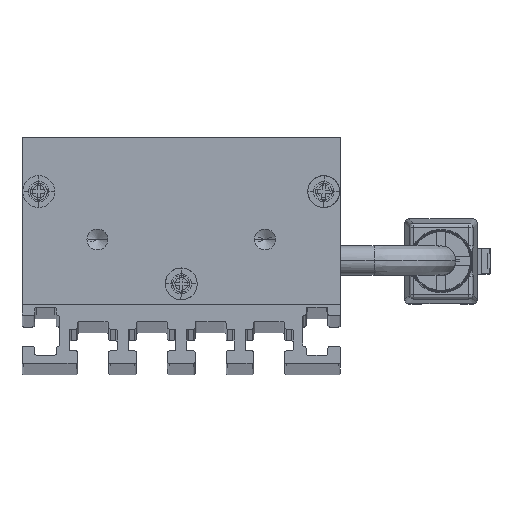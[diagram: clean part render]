
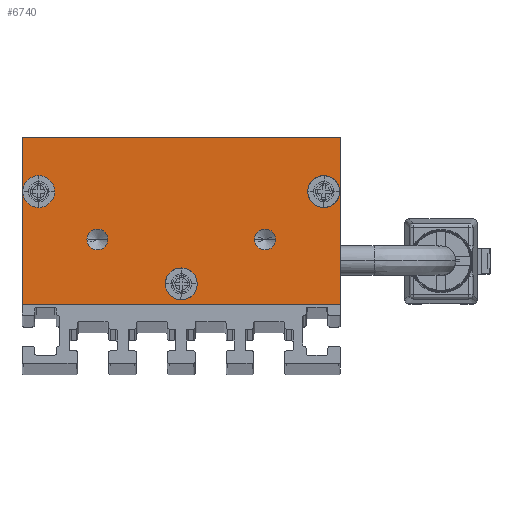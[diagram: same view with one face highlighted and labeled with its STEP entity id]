
A CAD part, top view. The second image highlights one B-rep face of the part: STEP entity #6740.
In plain terms, the highlighted planar face has unit normal (0, 0, 1) as drawn and (0, 0, -1) by its records, which use the part's own axes.
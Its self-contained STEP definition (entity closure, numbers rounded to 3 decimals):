
#277 = CARTESIAN_POINT ( 'NONE',  ( 17., 13.5, -2.5 ) ) ;
#442 = ORIENTED_EDGE ( 'NONE', *, *, #13126, .F. ) ;
#622 = ORIENTED_EDGE ( 'NONE', *, *, #9568, .F. ) ;
#627 = EDGE_CURVE ( 'NONE', #11807, #775, #1639, .T. ) ;
#636 = DIRECTION ( 'NONE',  ( -1., 0., 0. ) ) ;
#721 = VECTOR ( 'NONE', #636, 1000. ) ;
#775 = VERTEX_POINT ( 'NONE', #1201 ) ;
#1068 = FACE_BOUND ( 'NONE', #14077, .T. ) ;
#1178 = CARTESIAN_POINT ( 'NONE',  ( 19., 0., -2.5 ) ) ;
#1201 = CARTESIAN_POINT ( 'NONE',  ( 15.1, 13.5, -2.5 ) ) ;
#1346 = DIRECTION ( 'NONE',  ( 0., 0., -1. ) ) ;
#1430 = CARTESIAN_POINT ( 'NONE',  ( 19., 20., -2.5 ) ) ;
#1450 = CARTESIAN_POINT ( 'NONE',  ( -19., 20., -2.5 ) ) ;
#1461 = VERTEX_POINT ( 'NONE', #2991 ) ;
#1495 = DIRECTION ( 'NONE',  ( -1., 0., 0. ) ) ;
#1620 = CARTESIAN_POINT ( 'NONE',  ( -17., 13.5, -2.5 ) ) ;
#1639 = CIRCLE ( 'NONE', #10936, 1.9 ) ;
#1809 = CARTESIAN_POINT ( 'NONE',  ( -19., 0., -2.5 ) ) ;
#1945 = VECTOR ( 'NONE', #2033, 1000. ) ;
#1946 = CIRCLE ( 'NONE', #9652, 1.9 ) ;
#2030 = CARTESIAN_POINT ( 'NONE',  ( 8.75, 7.8, -2.5 ) ) ;
#2033 = DIRECTION ( 'NONE',  ( 0., -1., 0. ) ) ;
#2063 = CARTESIAN_POINT ( 'NONE',  ( 19., 20., -2.5 ) ) ;
#2137 = FACE_BOUND ( 'NONE', #3674, .T. ) ;
#2169 = VERTEX_POINT ( 'NONE', #7621 ) ;
#2222 = AXIS2_PLACEMENT_3D ( 'NONE', #7207, #3227, #14671 ) ;
#2271 = CARTESIAN_POINT ( 'NONE',  ( -17., 13.5, -2.5 ) ) ;
#2437 = VERTEX_POINT ( 'NONE', #1178 ) ;
#2500 = EDGE_CURVE ( 'NONE', #7313, #9584, #5995, .T. ) ;
#2547 = CARTESIAN_POINT ( 'NONE',  ( 10., 7.8, -2.5 ) ) ;
#2681 = CARTESIAN_POINT ( 'NONE',  ( 10., 7.8, -2.5 ) ) ;
#2764 = DIRECTION ( 'NONE',  ( 0., 0., -1. ) ) ;
#2850 = AXIS2_PLACEMENT_3D ( 'NONE', #2271, #13296, #1495 ) ;
#2872 = DIRECTION ( 'NONE',  ( -1., 0., 0. ) ) ;
#2895 = VERTEX_POINT ( 'NONE', #1450 ) ;
#2939 = DIRECTION ( 'NONE',  ( -1., 0., 0. ) ) ;
#2991 = CARTESIAN_POINT ( 'NONE',  ( -15.1, 13.5, -2.5 ) ) ;
#3227 = DIRECTION ( 'NONE',  ( 0., 0., 1. ) ) ;
#3247 = EDGE_CURVE ( 'NONE', #4294, #12187, #10470, .T. ) ;
#3566 = EDGE_LOOP ( 'NONE', ( #11755, #15294 ) ) ;
#3674 = EDGE_LOOP ( 'NONE', ( #13444, #622 ) ) ;
#3875 = CARTESIAN_POINT ( 'NONE',  ( 0., 2.5, -2.5 ) ) ;
#4037 = AXIS2_PLACEMENT_3D ( 'NONE', #1620, #10516, #8201 ) ;
#4294 = VERTEX_POINT ( 'NONE', #2030 ) ;
#4366 = DIRECTION ( 'NONE',  ( 0., 0., -1. ) ) ;
#4467 = CARTESIAN_POINT ( 'NONE',  ( -19., 20., -2.5 ) ) ;
#4518 = EDGE_CURVE ( 'NONE', #2169, #15547, #5823, .T. ) ;
#4602 = CARTESIAN_POINT ( 'NONE',  ( -19., 20., -2.5 ) ) ;
#4700 = CARTESIAN_POINT ( 'NONE',  ( 17., 13.5, -2.5 ) ) ;
#4924 = ORIENTED_EDGE ( 'NONE', *, *, #9884, .F. ) ;
#5024 = ORIENTED_EDGE ( 'NONE', *, *, #7702, .F. ) ;
#5092 = DIRECTION ( 'NONE',  ( 0., 0., -1. ) ) ;
#5093 = DIRECTION ( 'NONE',  ( -1., 0., 0. ) ) ;
#5168 = ORIENTED_EDGE ( 'NONE', *, *, #627, .F. ) ;
#5328 = DIRECTION ( 'NONE',  ( -1., 0., 0. ) ) ;
#5644 = EDGE_CURVE ( 'NONE', #1461, #15615, #8022, .T. ) ;
#5823 = CIRCLE ( 'NONE', #14296, 1.9 ) ;
#5974 = PLANE ( 'NONE',  #2222 ) ;
#5995 = CIRCLE ( 'NONE', #8117, 1.25 ) ;
#6201 = ORIENTED_EDGE ( 'NONE', *, *, #7264, .F. ) ;
#6414 = DIRECTION ( 'NONE',  ( -1., 0., 0. ) ) ;
#6426 = DIRECTION ( 'NONE',  ( -1., 0., 0. ) ) ;
#6487 = AXIS2_PLACEMENT_3D ( 'NONE', #6658, #5092, #5328 ) ;
#6501 = CIRCLE ( 'NONE', #9413, 1.25 ) ;
#6503 = VECTOR ( 'NONE', #6563, 1000. ) ;
#6563 = DIRECTION ( 'NONE',  ( 1., 0., 0. ) ) ;
#6585 = DIRECTION ( 'NONE',  ( 0., 0., -1. ) ) ;
#6589 = VERTEX_POINT ( 'NONE', #1809 ) ;
#6658 = CARTESIAN_POINT ( 'NONE',  ( -10., 7.8, -2.5 ) ) ;
#6740 = ADVANCED_FACE ( 'NONE', ( #12100, #1068, #12179, #2137, #14920, #8388 ), #5974, .F. ) ;
#7207 = CARTESIAN_POINT ( 'NONE',  ( 0., 0., -2.5 ) ) ;
#7264 = EDGE_CURVE ( 'NONE', #9584, #7313, #9683, .T. ) ;
#7305 = AXIS2_PLACEMENT_3D ( 'NONE', #2681, #1346, #5093 ) ;
#7313 = VERTEX_POINT ( 'NONE', #11706 ) ;
#7611 = CARTESIAN_POINT ( 'NONE',  ( -8.75, 7.8, -2.5 ) ) ;
#7621 = CARTESIAN_POINT ( 'NONE',  ( 1.9, 2.5, -2.5 ) ) ;
#7702 = EDGE_CURVE ( 'NONE', #6589, #2437, #9051, .T. ) ;
#7857 = DIRECTION ( 'NONE',  ( -1., 0., 0. ) ) ;
#7910 = CARTESIAN_POINT ( 'NONE',  ( -10., 7.8, -2.5 ) ) ;
#8022 = CIRCLE ( 'NONE', #4037, 1.9 ) ;
#8117 = AXIS2_PLACEMENT_3D ( 'NONE', #7910, #6585, #6414 ) ;
#8201 = DIRECTION ( 'NONE',  ( -1., 0., 0. ) ) ;
#8215 = LINE ( 'NONE', #4467, #721 ) ;
#8388 = FACE_OUTER_BOUND ( 'NONE', #13249, .T. ) ;
#8497 = EDGE_CURVE ( 'NONE', #15547, #2169, #1946, .T. ) ;
#8702 = CIRCLE ( 'NONE', #2850, 1.9 ) ;
#9017 = EDGE_CURVE ( 'NONE', #2437, #9142, #15921, .T. ) ;
#9051 = LINE ( 'NONE', #14107, #6503 ) ;
#9142 = VERTEX_POINT ( 'NONE', #2063 ) ;
#9413 = AXIS2_PLACEMENT_3D ( 'NONE', #2547, #12901, #7857 ) ;
#9522 = DIRECTION ( 'NONE',  ( -1., 0., 0. ) ) ;
#9568 = EDGE_CURVE ( 'NONE', #12187, #4294, #6501, .T. ) ;
#9584 = VERTEX_POINT ( 'NONE', #7611 ) ;
#9652 = AXIS2_PLACEMENT_3D ( 'NONE', #3875, #15705, #2939 ) ;
#9683 = CIRCLE ( 'NONE', #6487, 1.25 ) ;
#9693 = CIRCLE ( 'NONE', #11783, 1.9 ) ;
#9884 = EDGE_CURVE ( 'NONE', #2895, #6589, #10845, .T. ) ;
#10424 = DIRECTION ( 'NONE',  ( 0., 0., -1. ) ) ;
#10470 = CIRCLE ( 'NONE', #7305, 1.25 ) ;
#10516 = DIRECTION ( 'NONE',  ( 0., 0., -1. ) ) ;
#10845 = LINE ( 'NONE', #4602, #1945 ) ;
#10936 = AXIS2_PLACEMENT_3D ( 'NONE', #4700, #4366, #9522 ) ;
#10974 = CARTESIAN_POINT ( 'NONE',  ( 11.25, 7.8, -2.5 ) ) ;
#11412 = CARTESIAN_POINT ( 'NONE',  ( -18.9, 13.5, -2.5 ) ) ;
#11706 = CARTESIAN_POINT ( 'NONE',  ( -11.25, 7.8, -2.5 ) ) ;
#11755 = ORIENTED_EDGE ( 'NONE', *, *, #14706, .F. ) ;
#11783 = AXIS2_PLACEMENT_3D ( 'NONE', #277, #2764, #6426 ) ;
#11807 = VERTEX_POINT ( 'NONE', #13646 ) ;
#11916 = EDGE_CURVE ( 'NONE', #775, #11807, #9693, .T. ) ;
#12100 = FACE_BOUND ( 'NONE', #13157, .T. ) ;
#12179 = FACE_BOUND ( 'NONE', #3566, .T. ) ;
#12187 = VERTEX_POINT ( 'NONE', #10974 ) ;
#12566 = CARTESIAN_POINT ( 'NONE',  ( -1.9, 2.5, -2.5 ) ) ;
#12901 = DIRECTION ( 'NONE',  ( 0., 0., -1. ) ) ;
#13126 = EDGE_CURVE ( 'NONE', #9142, #2895, #8215, .T. ) ;
#13157 = EDGE_LOOP ( 'NONE', ( #15900, #5168 ) ) ;
#13249 = EDGE_LOOP ( 'NONE', ( #4924, #442, #15679, #5024 ) ) ;
#13296 = DIRECTION ( 'NONE',  ( 0., 0., -1. ) ) ;
#13444 = ORIENTED_EDGE ( 'NONE', *, *, #3247, .F. ) ;
#13646 = CARTESIAN_POINT ( 'NONE',  ( 18.9, 13.5, -2.5 ) ) ;
#13897 = VECTOR ( 'NONE', #14518, 1000. ) ;
#14077 = EDGE_LOOP ( 'NONE', ( #14587, #15347 ) ) ;
#14107 = CARTESIAN_POINT ( 'NONE',  ( -19., 0., -2.5 ) ) ;
#14241 = CARTESIAN_POINT ( 'NONE',  ( 0., 2.5, -2.5 ) ) ;
#14296 = AXIS2_PLACEMENT_3D ( 'NONE', #14241, #10424, #2872 ) ;
#14518 = DIRECTION ( 'NONE',  ( 0., 1., 0. ) ) ;
#14535 = EDGE_LOOP ( 'NONE', ( #14859, #6201 ) ) ;
#14587 = ORIENTED_EDGE ( 'NONE', *, *, #8497, .F. ) ;
#14671 = DIRECTION ( 'NONE',  ( 1., 0., 0. ) ) ;
#14706 = EDGE_CURVE ( 'NONE', #15615, #1461, #8702, .T. ) ;
#14859 = ORIENTED_EDGE ( 'NONE', *, *, #2500, .F. ) ;
#14920 = FACE_BOUND ( 'NONE', #14535, .T. ) ;
#15294 = ORIENTED_EDGE ( 'NONE', *, *, #5644, .F. ) ;
#15347 = ORIENTED_EDGE ( 'NONE', *, *, #4518, .F. ) ;
#15547 = VERTEX_POINT ( 'NONE', #12566 ) ;
#15615 = VERTEX_POINT ( 'NONE', #11412 ) ;
#15679 = ORIENTED_EDGE ( 'NONE', *, *, #9017, .F. ) ;
#15705 = DIRECTION ( 'NONE',  ( 0., 0., -1. ) ) ;
#15900 = ORIENTED_EDGE ( 'NONE', *, *, #11916, .F. ) ;
#15921 = LINE ( 'NONE', #1430, #13897 ) ;
